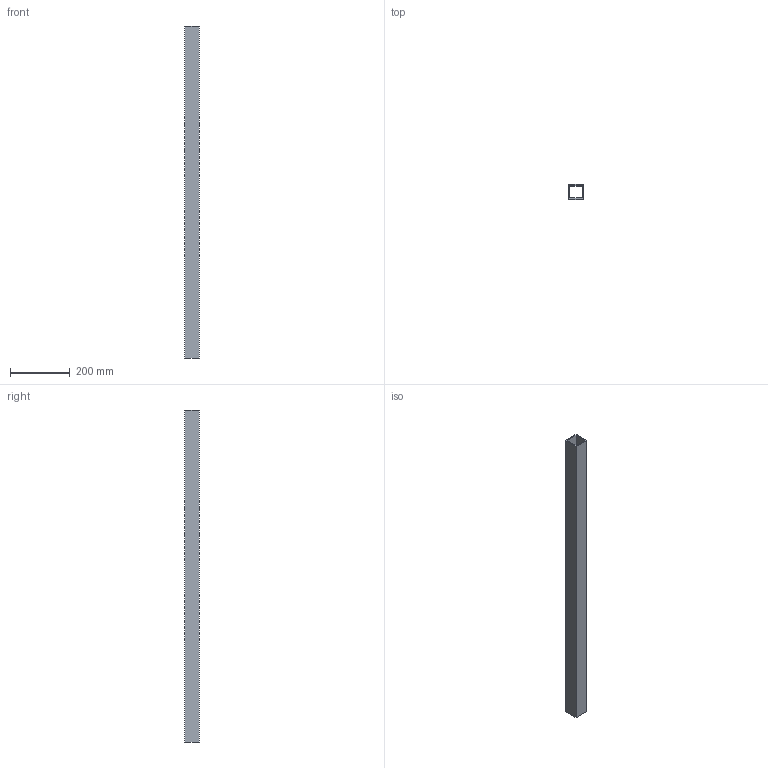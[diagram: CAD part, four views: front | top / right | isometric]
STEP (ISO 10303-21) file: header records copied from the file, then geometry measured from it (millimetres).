
FILE_DESCRIPTION(('Open CASCADE Model'),'2;1');
FILE_NAME('Open CASCADE Shape Model','2026-10-19T10:09:27',('Author'),( 'Open CASCADE'),'Open CASCADE STEP processor 8.0','Open CASCADE 8.0' ,'Unknown');
FILE_SCHEMA(('AUTOMOTIVE_DESIGN { 1 0 10303 214 1 1 1 1 }'));
Length unit declared in the file: millimetre
Products named in the file (1): AC_SHS50x50x4_L1110000 177
Bounding box: 50 x 50 x 1110 mm (x, y, z)
Volume: 816960 mm3; surface area: 409952 mm2
Topology: 1 solids, 1 shells, 10 faces, 24 edges, 16 vertices
Faces by surface type: plane 10
Entity records: 614 total; most frequent: CARTESIAN_POINT 99, DIRECTION 94, LINE 72, VECTOR 72, ORIENTED_EDGE 48, PCURVE 48, DEFINITIONAL_REPRESENTATION 48, EDGE_CURVE 24
